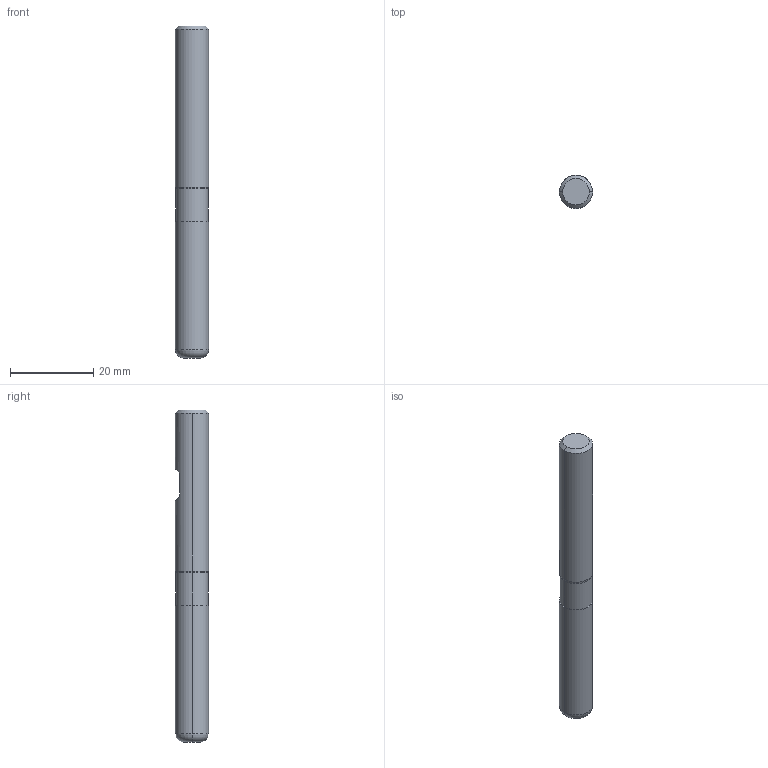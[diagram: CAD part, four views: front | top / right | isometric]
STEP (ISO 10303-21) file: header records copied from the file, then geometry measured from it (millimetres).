
FILE_DESCRIPTION (( 'STEP AP214' ), '1' );
FILE_NAME ('2.410.082.10_3D-model.step', '2022-02-15T20:00:30', ( '' ), ( '' ), 'SwSTEP 2.0', 'SolidWorks 2020', '' );
FILE_SCHEMA (( 'AUTOMOTIVE_DESIGN' ));
Length unit declared in the file: millimetre
Products named in the file (3): 2.410.082.10_3D-model; CUT-3D^Baugr28; NOCUT-3D^Baugr28
Assembly tree (2 placements, depth 2):
  2.410.082.10_3D-model
    CUT-3D^Baugr28
    NOCUT-3D^Baugr28
Bounding box: 8 x 8 x 80 mm (x, y, z)
Volume: 3957.9 mm3; surface area: 2171.9 mm2
Topology: 2 solids, 2 shells, 19 faces, 34 edges, 20 vertices
Faces by surface type: plane 7, cylinder 6, torus 4, cone 2
Entity records: 586 total; most frequent: DIRECTION 106, CARTESIAN_POINT 87, ORIENTED_EDGE 68, AXIS2_PLACEMENT_3D 47, EDGE_CURVE 34, CIRCLE 20, VERTEX_POINT 20, EDGE_LOOP 20
